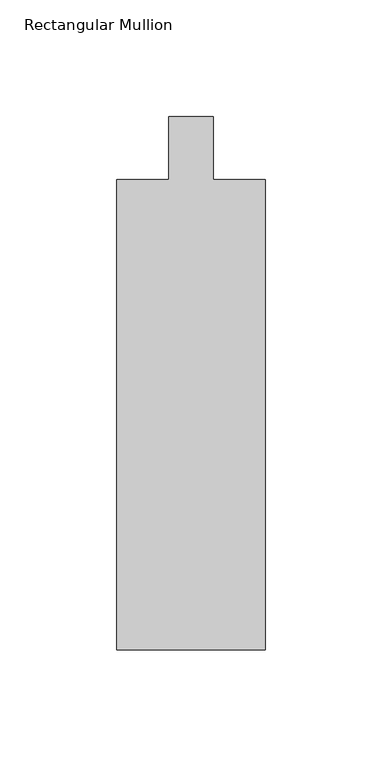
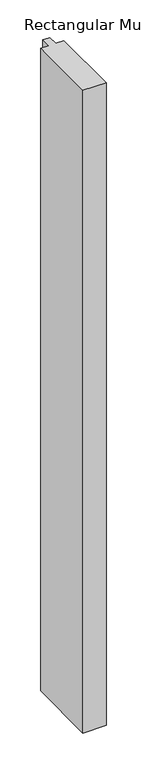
"""IFC4 building model written with IfcOpenShell, lengths in millimetres: member geometry."""

from ifc_helpers import new_model, si_unit, frame, origin, place, context, project, spatial, polyline, outline, extrude, source, transform, mapped, element, save


def rectangular_mullion_6e50a142(model_context):
    return source(origin(), model_context, "Body", "SweptSolid", [
        extrude(outline(polyline([(-63.5, -228.6), (-63.5, -26.9875), (-41.275, -26.9875), (-41.275, 0.0), (-22.225, 0.0), (-22.225, -26.9875), (0.0, -26.9875), (0.0, -228.6), (-63.5, -228.6)])), frame((0.0, 0.0, -1866.9), z_axis=(0.0, 0.0, 1.0), x_axis=(1.0, 0.0, 0.0)), (0.0, 0.0, 1.0), 1866.9),
    ])


if __name__ == "__main__":
    model = new_model("IFC4")
    model_context = context("Model", 3, world=origin())
    ifc_project = project(units=[si_unit("LENGTHUNIT", "METRE", prefix="MILLI")], contexts=[model_context])
    site = spatial("IfcSite", under=ifc_project)
    building = spatial("IfcBuilding", under=site)
    placement = place(None, origin())
    rectangular_mullion_shape = rectangular_mullion_6e50a142(model_context)
    element("IfcMember", 1, ObjectType="Rectangular Mullion : 2 1/2\" x 8\" - Capless", at=placement, inside=building, context=model_context, shape_type="MappedRepresentation", body=[
        mapped(rectangular_mullion_shape, transform((0.0, 0.0, 0.0), x_axis=(1.0, 0.0, 0.0), y_axis=(0.0, 1.0, 0.0), z_axis=(0.0, 0.0, 1.0))),
    ])
    save(model, "model.ifc")
